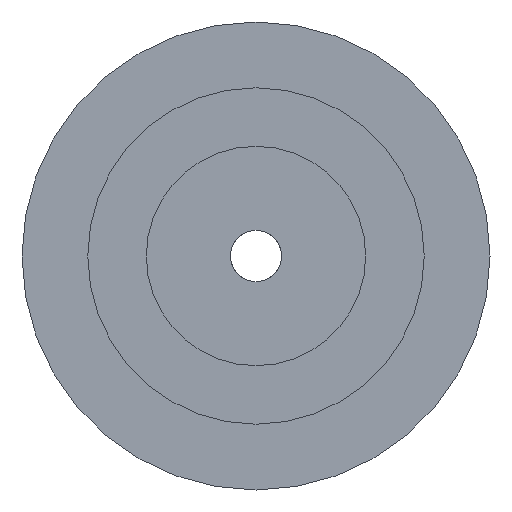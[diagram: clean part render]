
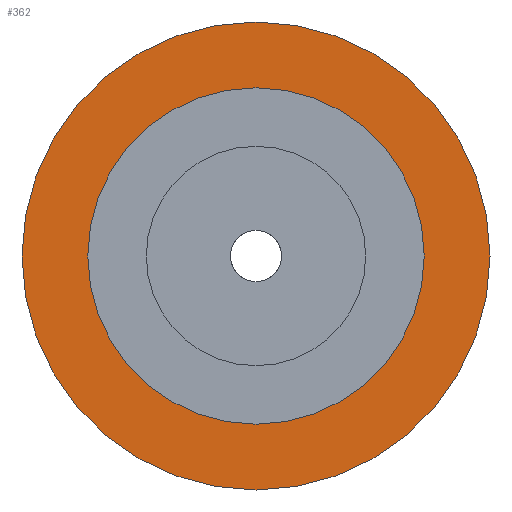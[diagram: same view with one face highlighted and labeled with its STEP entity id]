
A CAD part, front view. The second image highlights one B-rep face of the part: STEP entity #362.
In plain terms, the highlighted planar face has unit normal (0, -1, 0).
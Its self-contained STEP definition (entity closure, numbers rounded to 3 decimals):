
#3 = VERTEX_POINT ( 'NONE', #711 ) ;
#181 = VERTEX_POINT ( 'NONE', #1134 ) ;
#312 = EDGE_CURVE ( 'NONE', #313, #181, #1460, .T. ) ;
#313 = VERTEX_POINT ( 'NONE', #1461 ) ;
#319 = EDGE_CURVE ( 'NONE', #320, #3, #1575, .T. ) ;
#320 = VERTEX_POINT ( 'NONE', #1570 ) ;
#362 = ADVANCED_FACE ( 'NONE', ( #1794, #1793 ), #1792, .T. ) ;
#363 = EDGE_LOOP ( 'NONE', ( #364, #365 ) ) ;
#364 = ORIENTED_EDGE ( 'NONE', *, *, #312, .T. ) ;
#365 = ORIENTED_EDGE ( 'NONE', *, *, #384, .T. ) ;
#384 = EDGE_CURVE ( 'NONE', #181, #313, #1755, .T. ) ;
#385 = EDGE_LOOP ( 'NONE', ( #386, #387 ) ) ;
#386 = ORIENTED_EDGE ( 'NONE', *, *, #319, .F. ) ;
#387 = ORIENTED_EDGE ( 'NONE', *, *, #527, .F. ) ;
#527 = EDGE_CURVE ( 'NONE', #3, #320, #1896, .T. ) ;
#711 = CARTESIAN_POINT ( 'NONE',  ( 0., 21.4, 23. ) ) ;
#1134 = CARTESIAN_POINT ( 'NONE',  ( 0., 21.4, 32. ) ) ;
#1456 = DIRECTION ( 'NONE',  ( 0., 0., -1. ) ) ;
#1457 = DIRECTION ( 'NONE',  ( 0., -1., 0. ) ) ;
#1458 = CARTESIAN_POINT ( 'NONE',  ( 0., 21.4, 0. ) ) ;
#1459 = AXIS2_PLACEMENT_3D ( 'NONE', #1458, #1457, #1456 ) ;
#1460 = CIRCLE ( 'NONE', #1459, 32. ) ;
#1461 = CARTESIAN_POINT ( 'NONE',  ( 0., 21.4, -32. ) ) ;
#1570 = CARTESIAN_POINT ( 'NONE',  ( 0., 21.4, -23. ) ) ;
#1571 = DIRECTION ( 'NONE',  ( 0., 0., -1. ) ) ;
#1572 = DIRECTION ( 'NONE',  ( 0., -1., 0. ) ) ;
#1573 = CARTESIAN_POINT ( 'NONE',  ( 0., 21.4, 0. ) ) ;
#1574 = AXIS2_PLACEMENT_3D ( 'NONE', #1573, #1572, #1571 ) ;
#1575 = CIRCLE ( 'NONE', #1574, 23. ) ;
#1751 = DIRECTION ( 'NONE',  ( 0., 0., -1. ) ) ;
#1752 = DIRECTION ( 'NONE',  ( 0., -1., 0. ) ) ;
#1753 = CARTESIAN_POINT ( 'NONE',  ( 0., 21.4, 0. ) ) ;
#1754 = AXIS2_PLACEMENT_3D ( 'NONE', #1753, #1752, #1751 ) ;
#1755 = CIRCLE ( 'NONE', #1754, 32. ) ;
#1788 = DIRECTION ( 'NONE',  ( 0., 0., -1. ) ) ;
#1789 = DIRECTION ( 'NONE',  ( 0., -1., 0. ) ) ;
#1790 = CARTESIAN_POINT ( 'NONE',  ( 23., 21.4, 0. ) ) ;
#1791 = AXIS2_PLACEMENT_3D ( 'NONE', #1790, #1789, #1788 ) ;
#1792 = PLANE ( 'NONE',  #1791 ) ;
#1793 = FACE_BOUND ( 'NONE', #385, .T. ) ;
#1794 = FACE_OUTER_BOUND ( 'NONE', #363, .T. ) ;
#1893 = DIRECTION ( 'NONE',  ( 0., 0., -1. ) ) ;
#1894 = DIRECTION ( 'NONE',  ( 0., -1., 0. ) ) ;
#1895 = AXIS2_PLACEMENT_3D ( 'NONE', #1901, #1894, #1893 ) ;
#1896 = CIRCLE ( 'NONE', #1895, 23. ) ;
#1901 = CARTESIAN_POINT ( 'NONE',  ( 0., 21.4, 0. ) ) ;
